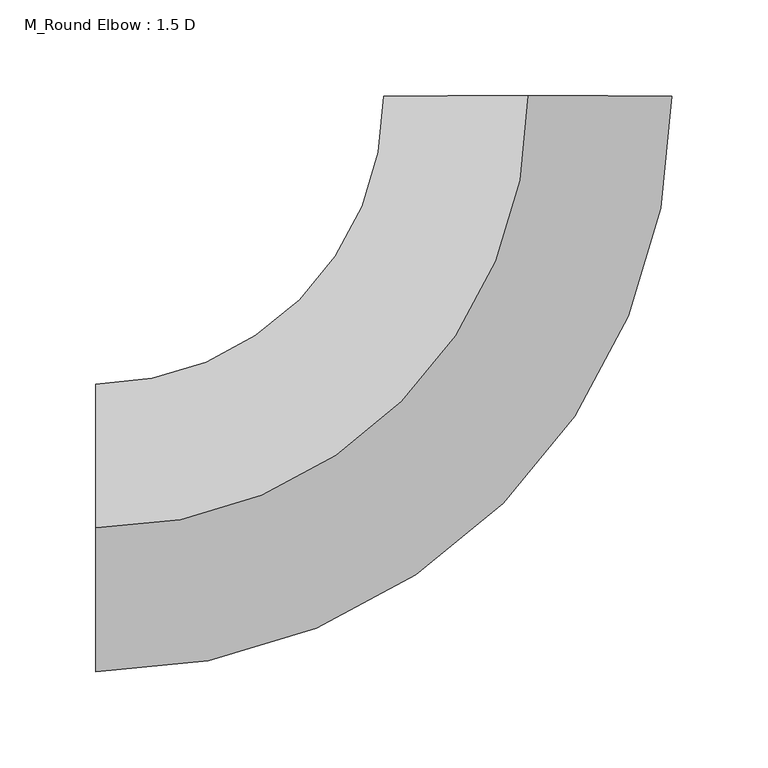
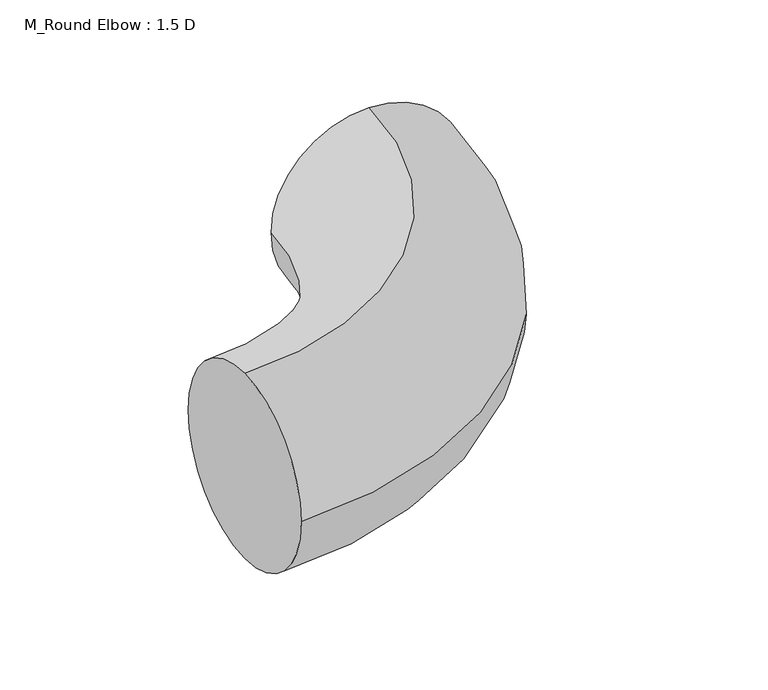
"""IFC4 building model written with IfcOpenShell, lengths in millimetres: duct fitting geometry, M_Round Elbow : 1.5 D."""

from ifc_helpers import new_model, si_unit, point, frame, origin, place, context, project, spatial, circle_curve, ellipse_curve, trimmed, source, transform, mapped, element, save
from ifc_brep_helpers import plane_surface, revolved_surface, advanced_brep


def m_round_elbow_1_5_d_730bacfd(model_context):
    return source(origin(), model_context, "Body", "AdvancedBrep", [
        advanced_brep(
        [(-225.0, 0.0, 75.0), (-225.0, 75.0, 0.0), (-225.0, 0.0, -75.0), (-225.0, -75.0, 0.0), (0.0, 225.0, 75.0), (75.0, 225.0, 0.0), (0.0, 225.0, -75.0), (-75.0, 225.0, 0.0)],
        [
            (0, 1, circle_curve(frame((-225.0, 0.0, 0.0), z_axis=(-1.0, 0.0, 0.0), x_axis=(0.0, 1.0, 0.0)), 75.0)),
            (1, 2, circle_curve(frame((-225.0, 0.0, 0.0), z_axis=(-1.0, 0.0, 0.0), x_axis=(0.0, 1.0, 0.0)), 75.0)),
            (2, 3, circle_curve(frame((-225.0, 0.0, 0.0), z_axis=(-1.0, 0.0, 0.0), x_axis=(0.0, 1.0, 0.0)), 75.0)),
            (3, 0, circle_curve(frame((-225.0, 0.0, 0.0), z_axis=(-1.0, 0.0, 0.0), x_axis=(0.0, 1.0, 0.0)), 75.0)),
            (4, 5, circle_curve(frame((0.0, 225.0, 0.0), z_axis=(0.0, 1.0, 0.0), x_axis=(-1.0, 0.0, 0.0)), 75.0)),
            (5, 6, circle_curve(frame((0.0, 225.0, 0.0), z_axis=(0.0, 1.0, 0.0), x_axis=(-1.0, 0.0, 0.0)), 75.0)),
            (6, 7, circle_curve(frame((0.0, 225.0, 0.0), z_axis=(0.0, 1.0, 0.0), x_axis=(-1.0, 0.0, 0.0)), 75.0)),
            (7, 4, circle_curve(frame((0.0, 225.0, 0.0), z_axis=(0.0, 1.0, 0.0), x_axis=(-1.0, 0.0, 0.0)), 75.0)),
            (7, 1, circle_curve(frame((-225.0, 225.0, 0.0), z_axis=(0.0, 0.0, -1.0), x_axis=(0.0, -1.0, 0.0)), 150.0)),
            (0, 4, circle_curve(frame((-225.0, 225.0, 75.0), z_axis=(0.0, 0.0, 1.0), x_axis=(0.0, -1.0, 0.0)), 225.0)),
            (6, 2, circle_curve(frame((-225.0, 225.0, -75.0), z_axis=(0.0, 0.0, -1.0), x_axis=(0.0, -1.0, 0.0)), 225.0)),
            (5, 3, circle_curve(frame((-225.0, 225.0, 0.0), z_axis=(0.0, 0.0, -1.0), x_axis=(0.0, -1.0, 0.0)), 300.0)),
        ],
        [
            plane_surface(frame((-225.0, 0.0, 0.0), z_axis=(-1.0, 0.0, 0.0), x_axis=(0.0, 0.0, 1.0))),
            plane_surface(frame((0.0, 225.0, 0.0), z_axis=(0.0, 1.0, 0.0), x_axis=(0.0, 0.0, 1.0))),
            revolved_surface(trimmed(ellipse_curve(frame((-225.0, 0.0, 0.0), z_axis=(-1.0, 0.0, 0.0), x_axis=(0.0, 1.0, 0.0)), 75.0, 75.0), [point((-225.0, 0.0, 75.0))], [point((-225.0, 75.0, 0.0))], True, "CARTESIAN"), (-225.0, 225.0, 0.0), (0.0, 0.0, 1.0)),
            revolved_surface(trimmed(ellipse_curve(frame((-225.0, 0.0, 0.0), z_axis=(-1.0, 0.0, 0.0), x_axis=(0.0, 1.0, 0.0)), 75.0, 75.0), [point((-225.0, 75.0, 0.0))], [point((-225.0, 0.0, -75.0))], True, "CARTESIAN"), (-225.0, 225.0, 0.0), (0.0, 0.0, 1.0)),
            revolved_surface(trimmed(ellipse_curve(frame((-225.0, 0.0, 0.0), z_axis=(-1.0, 0.0, 0.0), x_axis=(0.0, 1.0, 0.0)), 75.0, 75.0), [point((-225.0, 0.0, -75.0))], [point((-225.0, -75.0, 0.0))], True, "CARTESIAN"), (-225.0, 225.0, 0.0), (0.0, 0.0, 1.0)),
            revolved_surface(trimmed(ellipse_curve(frame((-225.0, 0.0, 0.0), z_axis=(-1.0, 0.0, 0.0), x_axis=(0.0, 1.0, 0.0)), 75.0, 75.0), [point((-225.0, -75.0, 0.0))], [point((-225.0, 0.0, 75.0))], True, "CARTESIAN"), (-225.0, 225.0, 0.0), (0.0, 0.0, 1.0)),
        ],
        [
            (0, [[1, 2, 3, 4]]),
            (1, [[5, 6, 7, 8]]),
            (2, [[9, -1, 10, -8]]),
            (3, [[11, -2, -9, -7]]),
            (4, [[12, -3, -11, -6]]),
            (5, [[-10, -4, -12, -5]]),
        ],
    ),
    ])


if __name__ == "__main__":
    model = new_model("IFC4")
    model_context = context("Model", 3, world=origin())
    ifc_project = project(units=[si_unit("LENGTHUNIT", "METRE", prefix="MILLI")], contexts=[model_context])
    site = spatial("IfcSite", under=ifc_project)
    building = spatial("IfcBuilding", under=site)
    placement = place(None, origin())
    m_round_elbow_1_5_d_shape = m_round_elbow_1_5_d_730bacfd(model_context)
    element("IfcDuctFitting", 1, ObjectType="M_Round Elbow : 1.5 D", at=placement, inside=building, context=model_context, shape_type="MappedRepresentation", body=[
        mapped(m_round_elbow_1_5_d_shape, transform((0.0, 0.0, 0.0), x_axis=(1.0, 0.0, 0.0), y_axis=(0.0, 1.0, 0.0), z_axis=(0.0, 0.0, 1.0))),
    ])
    save(model, "model.ifc")
